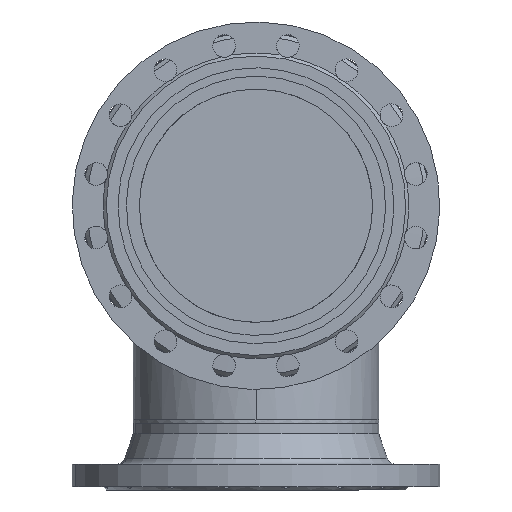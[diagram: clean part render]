
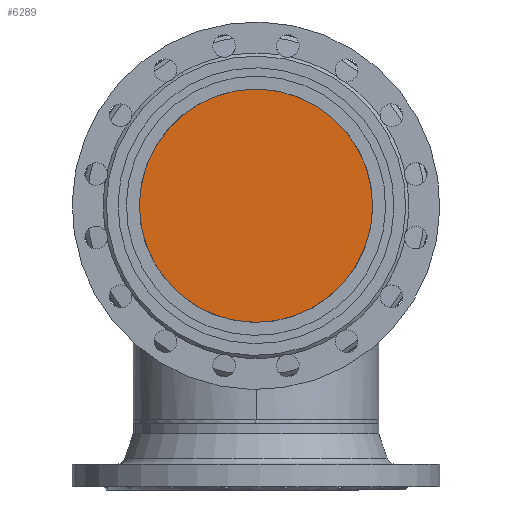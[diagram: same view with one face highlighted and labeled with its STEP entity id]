
A CAD part, front view. The second image highlights one B-rep face of the part: STEP entity #6289.
In plain terms, the highlighted planar face has unit normal (0, -1, 0).
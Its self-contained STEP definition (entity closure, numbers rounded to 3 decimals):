
#769 = CARTESIAN_POINT ( 'NONE',  ( 0., -58., 169. ) ) ;
#1406 = CARTESIAN_POINT ( 'NONE',  ( 0., -58., -169. ) ) ;
#1786 = CIRCLE ( 'NONE', #1787, 169. ) ;
#1787 = AXIS2_PLACEMENT_3D ( 'NONE', #1788, #1789, #1790 ) ;
#1788 = CARTESIAN_POINT ( 'NONE',  ( 0., -58., 0. ) ) ;
#1789 = DIRECTION ( 'NONE',  ( 0., -1., 0. ) ) ;
#1790 = DIRECTION ( 'NONE',  ( 0., 0., -1. ) ) ;
#4314 = FACE_OUTER_BOUND ( 'NONE', #6260, .T. ) ;
#4315 = PLANE ( 'NONE',  #4316 ) ;
#4316 = AXIS2_PLACEMENT_3D ( 'NONE', #4317, #4318, #4319 ) ;
#4317 = CARTESIAN_POINT ( 'NONE',  ( 0., -58., 0. ) ) ;
#4318 = DIRECTION ( 'NONE',  ( 0., -1., 0. ) ) ;
#4319 = DIRECTION ( 'NONE',  ( 0., 0., -1. ) ) ;
#5428 = CIRCLE ( 'NONE', #5429, 169. ) ;
#5429 = AXIS2_PLACEMENT_3D ( 'NONE', #5430, #5431, #5432 ) ;
#5430 = CARTESIAN_POINT ( 'NONE',  ( 0., -58., 0. ) ) ;
#5431 = DIRECTION ( 'NONE',  ( 0., -1., 0. ) ) ;
#5432 = DIRECTION ( 'NONE',  ( 0., 0., -1. ) ) ;
#5975 = ORIENTED_EDGE ( 'NONE', *, *, #6461, .T. ) ;
#6260 = EDGE_LOOP ( 'NONE', ( #5975, #7275 ) ) ;
#6289 = ADVANCED_FACE ( 'NONE', ( #4314 ), #4315, .T. ) ;
#6461 = EDGE_CURVE ( 'NONE', #10297, #10522, #5428, .T. ) ;
#7275 = ORIENTED_EDGE ( 'NONE', *, *, #10739, .T. ) ;
#10297 = VERTEX_POINT ( 'NONE', #769 ) ;
#10522 = VERTEX_POINT ( 'NONE', #1406 ) ;
#10739 = EDGE_CURVE ( 'NONE', #10522, #10297, #1786, .T. ) ;
